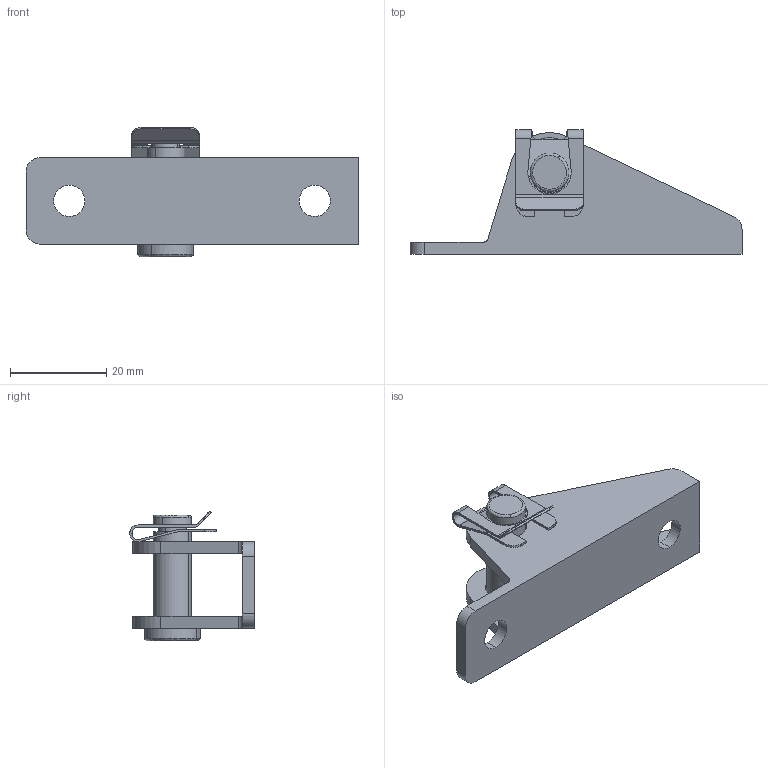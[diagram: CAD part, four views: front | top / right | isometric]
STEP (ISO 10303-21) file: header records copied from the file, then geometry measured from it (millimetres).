
FILE_DESCRIPTION (( 'STEP AP214' ), '1' );
FILE_NAME ('15.BS70.STEP', '2017-10-14T13:26:49', ( '' ), ( '' ), 'SwSTEP 2.0', 'SolidWorks 2016', '' );
FILE_SCHEMA (( 'AUTOMOTIVE_DESIGN' ));
Length unit declared in the file: millimetre
Products named in the file (4): 15.BS70; Imported1; Imported2; Imported3
Assembly tree (3 placements, depth 2):
  15.BS70
    Imported1
    Imported2
    Imported3
Bounding box: 69 x 25.84 x 26.89 mm (x, y, z)
Volume: 8065 mm3; surface area: 7614.4 mm2
Topology: 3 solids, 3 shells, 92 faces, 251 edges, 166 vertices
Faces by surface type: cylinder 46, plane 40, bspline 6
Entity records: 3632 total; most frequent: CARTESIAN_POINT 1192, ORIENTED_EDGE 502, DIRECTION 463, EDGE_CURVE 251, VERTEX_POINT 166, AXIS2_PLACEMENT_3D 164, LINE 135, VECTOR 135
